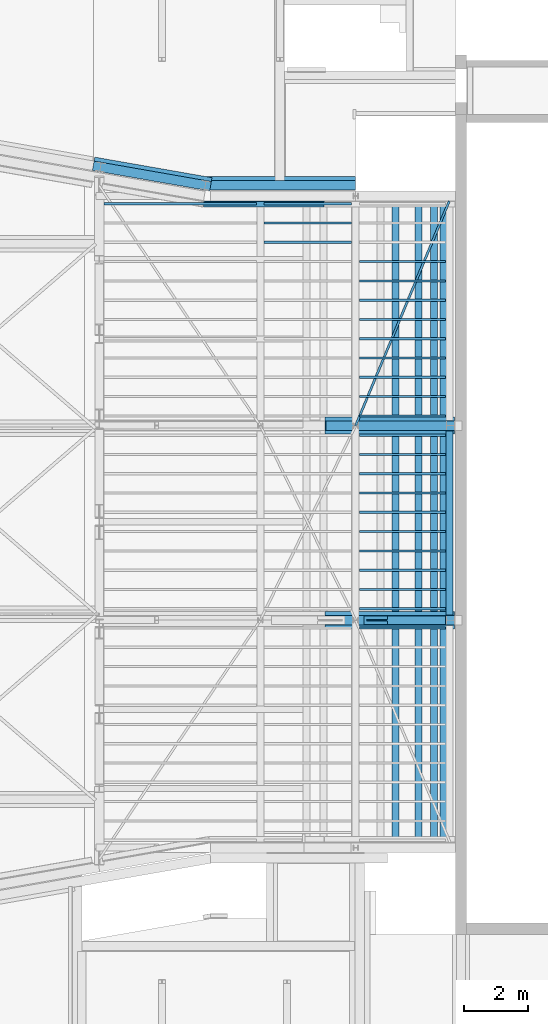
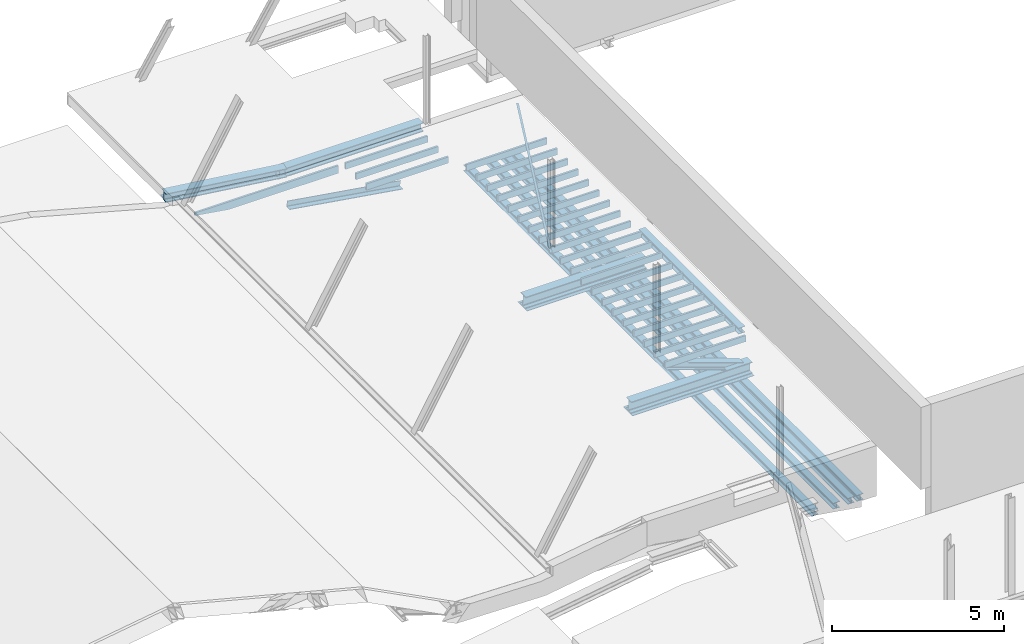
# One storey, part 32 of 50: 36 beams.
"""IFC2X3 building model written with IfcOpenShell, lengths in millimetres."""

from ifc_helpers import new_model, entity, si_unit, converted_unit, derived_unit, direction, frame, frame_2d, origin, origin_2d_with_axis, place, context, subcontext, project, spatial, polyline, circle_curve, parameter, trimmed, segment, composite_curve, rectangle, i_section, outline, extrude, clip, halfspace, source, transform, mapped, material, material_list, type_object, type_shapes, element, save


model = new_model("IFC2X3")

# Units and contexts
model_context = context("Model", 3, precision=0.01, world=origin(), true_north=direction((6.12303176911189e-17, 1.0)))
body_context = subcontext(model_context, "Body", "Model", "MODEL_VIEW")
ifc_project = project(units=[si_unit("LENGTHUNIT", "METRE", prefix="MILLI"), si_unit("AREAUNIT", "SQUARE_METRE", prefix="MILLI"), si_unit("VOLUMEUNIT", "CUBIC_METRE"), converted_unit("PLANEANGLEUNIT", "DEGREE", entity("IfcRatioMeasure", 0.0174532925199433), si_unit("PLANEANGLEUNIT", "RADIAN"), dimensions=[0, 0, 0, 0, 0, 0, 0]), si_unit("MASSUNIT", "GRAM", prefix="KILO"), derived_unit("MASSDENSITYUNIT", [(si_unit("MASSUNIT", "GRAM", prefix="KILO"), 1), (si_unit("LENGTHUNIT", "METRE"), -3)]), derived_unit("MOMENTOFINERTIAUNIT", [(si_unit("LENGTHUNIT", "METRE"), 4)]), si_unit("TIMEUNIT", "SECOND"), si_unit("FREQUENCYUNIT", "HERTZ"), si_unit("THERMODYNAMICTEMPERATUREUNIT", "DEGREE_CELSIUS"), derived_unit("THERMALTRANSMITTANCEUNIT", [(si_unit("MASSUNIT", "GRAM", prefix="KILO"), 1), (si_unit("THERMODYNAMICTEMPERATUREUNIT", "KELVIN"), -1), (si_unit("TIMEUNIT", "SECOND"), -3)]), derived_unit("VOLUMETRICFLOWRATEUNIT", [(si_unit("LENGTHUNIT", "METRE"), 3), (si_unit("TIMEUNIT", "SECOND"), -1)]), si_unit("ELECTRICCURRENTUNIT", "AMPERE"), si_unit("ELECTRICVOLTAGEUNIT", "VOLT"), si_unit("POWERUNIT", "WATT"), si_unit("FORCEUNIT", "NEWTON", prefix="KILO"), si_unit("ILLUMINANCEUNIT", "LUX"), si_unit("LUMINOUSFLUXUNIT", "LUMEN"), si_unit("LUMINOUSINTENSITYUNIT", "CANDELA"), derived_unit("USERDEFINED", [(si_unit("MASSUNIT", "GRAM", prefix="KILO"), -1), (si_unit("LENGTHUNIT", "METRE"), -2), (si_unit("TIMEUNIT", "SECOND"), 3), (si_unit("LUMINOUSFLUXUNIT", "LUMEN"), 1)]), derived_unit("LINEARVELOCITYUNIT", [(si_unit("LENGTHUNIT", "METRE"), 1), (si_unit("TIMEUNIT", "SECOND"), -1)]), si_unit("PRESSUREUNIT", "PASCAL"), derived_unit("USERDEFINED", [(si_unit("LENGTHUNIT", "METRE"), -2), (si_unit("MASSUNIT", "GRAM", prefix="KILO"), 1), (si_unit("TIMEUNIT", "SECOND"), -2)]), derived_unit("LINEARFORCEUNIT", [(si_unit("MASSUNIT", "GRAM", prefix="KILO"), 1), (si_unit("LENGTHUNIT", "METRE"), 1), (si_unit("TIMEUNIT", "SECOND"), -2), (si_unit("LENGTHUNIT", "METRE"), -1)]), derived_unit("PLANARFORCEUNIT", [(si_unit("MASSUNIT", "GRAM", prefix="KILO"), 1), (si_unit("LENGTHUNIT", "METRE"), 1), (si_unit("TIMEUNIT", "SECOND"), -2), (si_unit("LENGTHUNIT", "METRE"), -2)])], contexts=[model_context])

# Site, building, storey
site_placement = place(None, origin())
site = spatial("IfcSite", under=ifc_project, at=site_placement, Name="Theater aan de Parade", CompositionType="ELEMENT")
building_placement = place(site_placement, origin())
building = spatial("IfcBuilding", under=site, at=building_placement, Name="Theater aan de Parade", CompositionType="ELEMENT")
storey_placement = place(building_placement, frame((0.0, 0.0, 15820.0)))
storey = spatial("IfcBuildingStorey", under=building, at=storey_placement, Name="04 vierde verdieping", CompositionType="ELEMENT", Elevation=15820.0)

# Beams
ifc_material_1 = material(Name="00_PBT_MAT_staal_S355")
beam_type_1 = type_object("IfcBeamType", Name="28_PBT_SF_staal_H-profiel:S355_HE220A", PredefinedType="NOTDEFINED")
beam_1_placement = place(storey_placement, frame((67166.05603639, 29346.916549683, 0.0), z_axis=(0.0, 0.0, 1.0), x_axis=(0.0, 1.0, 0.0)))
element("IfcBeam", 1, at=beam_1_placement, inside=storey, type_object=beam_type_1, material=ifc_material_1, Name="28_PBT_SF_staal_H-profiel:S355_HE220A", ObjectType="28_PBT_SF_staal_H-profiel:S355_HE220A", context=body_context, shape_type="SweptSolid", body=[
    extrude(i_section(OverallWidth=220.000000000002, OverallDepth=210.0, WebThickness=6.99999999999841, FlangeThickness=10.9999999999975, FilletRadius=17.9999999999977, at=frame_2d((-4.32720526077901e-12, 8.66862137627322e-12), x_axis=(0.0, 1.0))), frame((162.700000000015, 0.0, 1195.0), z_axis=(1.0, 0.0, 0.0), x_axis=(0.0, 0.0, -1.0)), (0.0, 0.0, 1.0), 5800.18344589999),
])
for number, where, z_axis, x_axis in (
    (2, (65470.0, 42550.0, 0.0), (0.0, 0.0, 1.0), (0.0, -1.0, 0.0)),
    (3, (66196.8570769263, 42550.0, 0.0), (0.0, 0.0, 1.0), (0.0, -1.0, 0.0)),
    (4, (66686.8570769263, 42550.0, 0.0), (0.0, 0.0, 1.0), (0.0, -1.0, 0.0)),
    (5, (66986.8570769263, 42550.0, 0.0), (0.0, 0.0, 1.0), (0.0, -1.0, 0.0)),
):
    element("IfcBeam", number, at=place(storey_placement, frame(where, z_axis=z_axis, x_axis=x_axis)), inside=storey, type_object=beam_type_1, material=ifc_material_1, Name="28_PBT_SF_staal_H-profiel:S355_HE220A", ObjectType="28_PBT_SF_staal_H-profiel:S355_HE220A", context=body_context, shape_type="SweptSolid", body=[
        extrude(i_section(OverallWidth=220.000000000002, OverallDepth=210.0, WebThickness=6.99999999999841, FlangeThickness=10.9999999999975, FilletRadius=17.9999999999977, at=frame_2d((-2.16715534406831e-12, 8.66862137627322e-12), x_axis=(0.0, 1.0))), frame((0.0, 0.0, -320.0), z_axis=(1.0, 0.0, 0.0), x_axis=(0.0, 0.0, -1.0)), (0.0, 0.0, 1.0), 20209.9999999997),
    ])
beam_type_2 = type_object("IfcBeamType", Name="28_PBT_SF_staal_L-profiel:S355_L200x200x20", PredefinedType="NOTDEFINED")
beam_2_placement = place(storey_placement, frame((59468.0092258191, 42493.1999999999, 652.292604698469), z_axis=(0.156434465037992, 0.0, 0.987688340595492), x_axis=(0.987688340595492, 0.0, -0.156434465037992)))
element("IfcBeam", 6, at=beam_2_placement, inside=storey, type_object=beam_type_2, material=ifc_material_1, Name="28_PBT_SF_staal_L-profiel:S355_L200x200x20", ObjectType="28_PBT_SF_staal_L-profiel:S355_L200x200x20", context=body_context, shape_type="SweptSolid", body=[
    extrude(outline(composite_curve([segment(polyline([(64.5555555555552, -124.44444444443), (75.5555555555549, -124.44444444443)]), True, "CONTINUOUS"), segment(polyline([(75.5555555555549, -124.44444444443), (75.5555555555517, 75.5555555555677)]), True, "CONTINUOUS"), segment(polyline([(75.5555555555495, 75.5555555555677), (-124.444444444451, 75.5555555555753)]), True, "CONTINUOUS"), segment(polyline([(-124.444444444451, 75.5555555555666), (-124.44444444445, 64.5555555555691)]), True, "CONTINUOUS"), segment(trimmed(circle_curve(frame_2d((-115.444444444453, 64.5555555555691), x_axis=(-1.0, 0.0)), 8.99999999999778), [parameter(0.0)], [parameter(90.0000000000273)], True, "PARAMETER"), True, "CONTINUOUS"), segment(polyline([(-115.444444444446, 55.5555555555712), (37.5555555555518, 55.5555555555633)]), True, "CONTINUOUS"), segment(trimmed(circle_curve(frame_2d((37.555555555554, 37.5555555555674), x_axis=(0.0, 1.0)), 17.9999999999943), [parameter(269.999999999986)], [parameter(0.0)], True, "PARAMETER"), False, "CONTINUOUS"), segment(polyline([(55.5555555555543, 37.5555555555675), (55.5555555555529, -115.444444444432)]), True, "CONTINUOUS"), segment(trimmed(circle_curve(frame_2d((64.5555555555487, -115.444444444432), x_axis=(-1.0, 0.0)), 8.99999999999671), [parameter(0.0)], [parameter(90.0000000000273)], True, "PARAMETER"), True, "CONTINUOUS")], self_intersect=False)), frame((0.0, -18.7555555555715, -199.44444444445), z_axis=(1.0, 0.0, 0.0), x_axis=(0.0, 0.0, -1.0)), (0.0, 0.0, 1.0), 3842.92680824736),
])
beam_type_3 = type_object("IfcBeamType", Name="28_PBT_SF_staal_H-profiel:S355_HE260B", PredefinedType="NOTDEFINED")
beam_3_placement = place(storey_placement, frame((64328.2377806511, 29346.916549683, 1093.71507664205), z_axis=(0.332948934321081, 0.0, 0.942944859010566), x_axis=(0.942944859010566, 0.0, -0.332948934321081)))
element("IfcBeam", 7, at=beam_3_placement, inside=storey, type_object=beam_type_3, material=ifc_material_1, Name="28_PBT_SF_staal_H-profiel:S355_HE260B", ObjectType="28_PBT_SF_staal_H-profiel:S355_HE260B", context=body_context, shape_type="Clipping", body=[
    clip(clip(clip(extrude(outline(composite_curve([segment(polyline([(112.499999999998, -130.0), (130.0, -130.0)]), True, "CONTINUOUS"), segment(polyline([(130.0, -130.0), (130.0, 130.0)]), True, "CONTINUOUS"), segment(polyline([(130.0, 130.0), (112.499999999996, 130.0)]), True, "CONTINUOUS"), segment(polyline([(112.499999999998, 130.0), (112.499999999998, 29.0)]), True, "CONTINUOUS"), segment(trimmed(circle_curve(frame_2d((88.5000000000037, 29.0), x_axis=(1.0, 0.0)), 24.0000000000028), [parameter(270.00000000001)], [parameter(0.0)], True, "PARAMETER"), False, "CONTINUOUS"), segment(polyline([(88.5000000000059, 5.0), (-88.4999999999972, 5.0)]), True, "CONTINUOUS"), segment(trimmed(circle_curve(frame_2d((-88.4999999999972, 29.0), x_axis=(0.0, -1.0)), 24.0000000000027), [parameter(270.000000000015)], [parameter(0.0)], True, "PARAMETER"), False, "CONTINUOUS"), segment(polyline([(-112.499999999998, 29.0), (-112.499999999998, 130.0)]), True, "CONTINUOUS"), segment(polyline([(-112.499999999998, 130.0), (-130.0, 130.0)]), True, "CONTINUOUS"), segment(polyline([(-130.0, 130.0), (-130.0, -130.0)]), True, "CONTINUOUS"), segment(polyline([(-130.0, -130.0), (-112.499999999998, -130.0)]), True, "CONTINUOUS"), segment(polyline([(-112.500000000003, -130.0), (-112.5, -29.0)]), True, "CONTINUOUS"), segment(trimmed(circle_curve(frame_2d((-88.4999999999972, -29.0), x_axis=(-1.0, 0.0)), 24.0000000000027), [parameter(270.000000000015)], [parameter(0.0)], True, "PARAMETER"), False, "CONTINUOUS"), segment(polyline([(-88.4999999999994, -5.0), (88.499999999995, -5.0)]), True, "CONTINUOUS"), segment(trimmed(circle_curve(frame_2d((88.5000000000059, -29.0), x_axis=(0.0, 1.0)), 23.9999999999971), [parameter(269.999999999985)], [parameter(0.0)], True, "PARAMETER"), False, "CONTINUOUS"), segment(polyline([(112.499999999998, -29.0), (112.499999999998, -130.0)]), True, "CONTINUOUS")], self_intersect=False)), frame((213.643107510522, 0.0, 0.0), z_axis=(1.0, 0.0, 0.0), x_axis=(0.0, 0.0, -1.0)), (0.0, 0.0, 1.0), 2644.91552228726), halfspace(frame((-427.447160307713, -170.0, -1077.51067672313), z_axis=(0.332948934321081, 0.0, -0.942944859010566), x_axis=(0.942944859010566, 0.0, 0.332948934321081)), False)), halfspace(frame((2871.87658717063, -150.0, 45.0431137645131), z_axis=(0.942944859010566, 0.0, 0.332948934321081), x_axis=(-0.332948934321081, 0.0, 0.942944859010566)), False)), halfspace(frame((-7530.79445780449, 170.0, -2864.52069826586), z_axis=(-0.332948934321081, 0.0, 0.942944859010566), x_axis=(0.942944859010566, 0.0, 0.332948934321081)), False)),
])
ifc_material_2 = material(Name="00_PBT_MAT_Lucht")
ifc_material_list_1 = material_list([ifc_material_1, ifc_material_2])
beam_type_4 = type_object("IfcBeamType", Name="28_PBT_SF_staal_H-profiel_met_ondergelaste_strip (void):S355_HE300B + ondergelaste strip", PredefinedType="BEAM", material=ifc_material_list_1)
shared_shape_1 = source(origin(), body_context, "Body", "SweptSolid", [
    extrude(outline(composite_curve([segment(polyline([(131.0, -150.0), (150.0, -150.0)]), True, "CONTINUOUS"), segment(polyline([(150.0, -150.0), (150.0, 150.0)]), True, "CONTINUOUS"), segment(polyline([(150.0, 150.0), (131.0, 150.0)]), True, "CONTINUOUS"), segment(polyline([(131.0, 150.0), (131.0, 32.4999999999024)]), True, "CONTINUOUS"), segment(trimmed(circle_curve(frame_2d((104.0, 32.499999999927), x_axis=(1.0, 0.0)), 27.0000000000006), [parameter(270.0)], [parameter(0.0)], True, "PARAMETER"), False, "CONTINUOUS"), segment(polyline([(104.0, 5.49999999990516), (-104.0, 5.50000000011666)]), True, "CONTINUOUS"), segment(trimmed(circle_curve(frame_2d((-104.0, 32.5000000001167), x_axis=(0.0, -1.0)), 27.0000000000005), [parameter(270.0)], [parameter(0.0)], True, "PARAMETER"), False, "CONTINUOUS"), segment(polyline([(-131.0, 32.5000000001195), (-131.0, 150.0)]), True, "CONTINUOUS"), segment(polyline([(-131.0, 150.0), (-150.0, 150.0)]), True, "CONTINUOUS"), segment(polyline([(-150.0, 150.0), (-150.0, -150.0)]), True, "CONTINUOUS"), segment(polyline([(-150.0, -150.0), (-131.0, -150.0)]), True, "CONTINUOUS"), segment(polyline([(-131.0, -150.0), (-131.0, -32.499999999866)]), True, "CONTINUOUS"), segment(trimmed(circle_curve(frame_2d((-104.0, -32.4999999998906), x_axis=(-1.0, 0.0)), 27.0000000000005), [parameter(270.0)], [parameter(0.0)], True, "PARAMETER"), False, "CONTINUOUS"), segment(polyline([(-104.0, -5.49999999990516), (104.0, -5.50000000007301)]), True, "CONTINUOUS"), segment(trimmed(circle_curve(frame_2d((104.0, -32.5000000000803), x_axis=(0.0, 1.0)), 27.0000000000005), [parameter(270.0)], [parameter(0.0)], True, "PARAMETER"), False, "CONTINUOUS"), segment(polyline([(131.0, -32.5000000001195), (131.0, -150.0)]), True, "CONTINUOUS")], self_intersect=False)), frame((59364.3916864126, 43035.0, 17135.0), z_axis=(1.0, 0.0, 0.0), x_axis=(0.0, 0.0, -1.0)), (0.0, 0.0, 1.0), 4851.66434997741),
    extrude(rectangle(XDim=14.9999999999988, YDim=420.0, at=frame_2d((0.0, 1.29887212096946e-11), x_axis=(1.0, 0.0))), frame((59365.3916864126, 43100.0, 16977.5), z_axis=(1.0, 0.0, 0.0), x_axis=(0.0, 0.0, -1.0)), (0.0, 0.0, 1.0), 4849.66434997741),
])
type_shapes(beam_type_4, [shared_shape_1])
beam_4_placement = place(storey_placement, frame((0.0, 0.0, -15820.0)))
element("IfcBeam", 8, at=beam_4_placement, inside=storey, type_object=beam_type_4, material=ifc_material_1, Name="28_PBT_SF_staal_H-profiel_met_ondergelaste_strip (void):S355_HE300B + ondergelaste strip", ObjectType="28_PBT_SF_staal_H-profiel_met_ondergelaste_strip (void):S355_HE300B + ondergelaste strip", context=body_context, shape_type="MappedRepresentation", body=[
    mapped(shared_shape_1, transform((0.0, 0.0, 0.0), scale=1.0)),
])
ifc_material_list_2 = material_list([ifc_material_2, ifc_material_1])
beam_type_5 = type_object("IfcBeamType", Name="28_PBT_SF_staal_H-profiel_met_ondergelaste_strip (void):S355_HE300B + ondergelaste strip", PredefinedType="BEAM", material=ifc_material_list_2)
shared_shape_2 = source(origin(), body_context, "Body", "SweptSolid", [
    extrude(rectangle(XDim=15.0, YDim=420.0, at=origin_2d_with_axis()), frame((-1872.58410900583, 65.0, -157.500000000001), z_axis=(1.0, 0.0, 0.0), x_axis=(0.0, 0.0, -1.0)), (0.0, 0.0, 1.0), 3745.16821801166),
    extrude(outline(composite_curve([segment(polyline([(131.0, -150.0), (150.0, -150.0)]), True, "CONTINUOUS"), segment(polyline([(150.0, -150.0), (150.0, 150.0)]), True, "CONTINUOUS"), segment(polyline([(150.0, 150.0), (131.0, 150.0)]), True, "CONTINUOUS"), segment(polyline([(131.0, 150.0), (131.0, 32.5)]), True, "CONTINUOUS"), segment(trimmed(circle_curve(frame_2d((104.0, 32.5), x_axis=(1.0, 0.0)), 27.0000000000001), [parameter(270.0)], [parameter(0.0)], True, "PARAMETER"), False, "CONTINUOUS"), segment(polyline([(104.0, 5.49999999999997), (-104.0, 5.49999999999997)]), True, "CONTINUOUS"), segment(trimmed(circle_curve(frame_2d((-104.0, 32.5), x_axis=(0.0, -1.0)), 27.0), [parameter(270.0)], [parameter(0.0)], True, "PARAMETER"), False, "CONTINUOUS"), segment(polyline([(-131.0, 32.5), (-131.0, 150.0)]), True, "CONTINUOUS"), segment(polyline([(-131.0, 150.0), (-150.0, 150.0)]), True, "CONTINUOUS"), segment(polyline([(-150.0, 150.0), (-150.0, -150.0)]), True, "CONTINUOUS"), segment(polyline([(-150.0, -150.0), (-131.0, -150.0)]), True, "CONTINUOUS"), segment(polyline([(-131.0, -150.0), (-131.0, -32.5)]), True, "CONTINUOUS"), segment(trimmed(circle_curve(frame_2d((-104.0, -32.5), x_axis=(-1.0, 0.0)), 27.0), [parameter(269.999999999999)], [parameter(0.0)], True, "PARAMETER"), False, "CONTINUOUS"), segment(polyline([(-104.0, -5.50000000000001), (104.0, -5.50000000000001)]), True, "CONTINUOUS"), segment(trimmed(circle_curve(frame_2d((104.0, -32.5), x_axis=(0.0, 1.0)), 27.0), [parameter(270.0)], [parameter(0.0)], True, "PARAMETER"), False, "CONTINUOUS"), segment(polyline([(131.0, -32.5), (131.0, -150.0)]), True, "CONTINUOUS")], self_intersect=False)), frame((-1873.58410900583, 0.0, 0.0), z_axis=(1.0, 0.0, 0.0), x_axis=(0.0, 0.0, -1.0)), (0.0, 0.0, 1.0), 3747.16821801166),
])
type_shapes(beam_type_5, [shared_shape_2])
beam_5_placement = place(storey_placement, frame((57803.2196640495, 43329.0571160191, 1315.0), z_axis=(0.0, 0.0, 1.0), x_axis=(0.985030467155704, -0.172380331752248, 0.0)))
element("IfcBeam", 9, at=beam_5_placement, inside=storey, type_object=beam_type_5, material=ifc_material_1, Name="28_PBT_SF_staal_H-profiel_met_ondergelaste_strip (void):S355_HE300B + ondergelaste strip", ObjectType="28_PBT_SF_staal_H-profiel_met_ondergelaste_strip (void):S355_HE300B + ondergelaste strip", context=body_context, shape_type="MappedRepresentation", body=[
    mapped(shared_shape_2, transform((0.0, 0.0, 0.0), scale=1.0)),
])
ifc_material_3 = material(Name="00_PBT_MAT_hout")
beam_type_6 = type_object("IfcBeamType", Name="28_PBT_SF_rechthoekig hout:70x270", PredefinedType="NOTDEFINED")
beam_6_placement = place(storey_placement, frame((61216.0560363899, 42456.0, 0.0), z_axis=(0.0, 0.0, 1.0), x_axis=(-1.0, 0.0, 0.0)))
element("IfcBeam", 10, at=beam_6_placement, inside=storey, type_object=beam_type_6, material=ifc_material_3, Name="28_PBT_SF_rechthoekig hout:70x270", ObjectType="28_PBT_SF_rechthoekig hout:70x270", context=body_context, shape_type="Clipping", body=[
    clip(extrude(rectangle(XDim=270.000000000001, YDim=70.0000000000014, at=frame_2d((0.0, 0.0), x_axis=(0.0, 1.0))), frame((122.699999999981, 0.0, 1187.0), z_axis=(1.0, 0.0, 0.0), x_axis=(0.0, 1.0, 0.0)), (0.0, 0.0, 1.0), 4799.9812878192), halfspace(frame((2971.92563283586, 4922.68128781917, 920.0), z_axis=(0.156434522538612, 0.0, -0.987688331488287), x_axis=(0.0, -1.0, 0.0)), False)),
])
beam_type_7 = type_object("IfcBeamType", Name="28_PBT_SF_rechthoekig hout:70x220", PredefinedType="NOTDEFINED")
beam_7_placement = place(storey_placement, frame((67166.05603639, 29102.0, 0.0), z_axis=(0.0, 0.0, 1.0), x_axis=(-1.0, 0.0, 0.0)))
element("IfcBeam", 11, at=beam_7_placement, inside=storey, type_object=beam_type_7, material=ifc_material_3, Name="28_PBT_SF_rechthoekig hout:70x220", ObjectType="28_PBT_SF_rechthoekig hout:70x220", context=body_context, shape_type="SweptSolid", body=[
    extrude(rectangle(XDim=220.0, YDim=70.0000000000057, at=frame_2d((1.08002495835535e-12, 2.16715534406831e-12), x_axis=(1.0, 0.0))), frame((122.700000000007, 0.0, 1212.0), z_axis=(1.0, 0.0, 0.0), x_axis=(0.0, 0.0, -1.0)), (0.0, 0.0, 1.0), 2704.6),
])
beam_8_placement = place(storey_placement, frame((67166.05603639, 29709.0, 0.0), z_axis=(0.0, 0.0, 1.0), x_axis=(-1.0, 0.0, 0.0)))
element("IfcBeam", 12, at=beam_8_placement, inside=storey, type_object=beam_type_7, material=ifc_material_3, Name="28_PBT_SF_rechthoekig hout:70x220", ObjectType="28_PBT_SF_rechthoekig hout:70x220", context=body_context, shape_type="SweptSolid", body=[
    extrude(rectangle(XDim=220.0, YDim=70.0000000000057, at=frame_2d((1.08002495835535e-12, -2.16715534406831e-12), x_axis=(1.0, 0.0))), frame((122.700000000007, 0.0, 1212.0), z_axis=(1.0, 0.0, 0.0), x_axis=(0.0, 0.0, -1.0)), (0.0, 0.0, 1.0), 2704.6),
])
beam_9_placement = place(storey_placement, frame((67166.05603639, 30316.0, 0.0), z_axis=(0.0, 0.0, 1.0), x_axis=(-1.0, 0.0, 0.0)))
element("IfcBeam", 13, at=beam_9_placement, inside=storey, type_object=beam_type_7, material=ifc_material_3, Name="28_PBT_SF_rechthoekig hout:70x220", ObjectType="28_PBT_SF_rechthoekig hout:70x220", context=body_context, shape_type="SweptSolid", body=[
    extrude(rectangle(XDim=220.0, YDim=70.0000000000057, at=frame_2d((1.08002495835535e-12, 2.16715534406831e-12), x_axis=(1.0, 0.0))), frame((122.700000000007, 0.0, 1212.0), z_axis=(1.0, 0.0, 0.0), x_axis=(0.0, 0.0, -1.0)), (0.0, 0.0, 1.0), 2704.6),
])
beam_10_placement = place(storey_placement, frame((67166.05603639, 30923.0, 0.0), z_axis=(0.0, 0.0, 1.0), x_axis=(-1.0, 0.0, 0.0)))
element("IfcBeam", 14, at=beam_10_placement, inside=storey, type_object=beam_type_7, material=ifc_material_3, Name="28_PBT_SF_rechthoekig hout:70x220", ObjectType="28_PBT_SF_rechthoekig hout:70x220", context=body_context, shape_type="SweptSolid", body=[
    extrude(rectangle(XDim=220.0, YDim=70.0000000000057, at=frame_2d((1.08002495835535e-12, -2.16715534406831e-12), x_axis=(1.0, 0.0))), frame((122.700000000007, 0.0, 1212.0), z_axis=(1.0, 0.0, 0.0), x_axis=(0.0, 0.0, -1.0)), (0.0, 0.0, 1.0), 2704.6),
])
beam_11_placement = place(storey_placement, frame((67166.05603639, 31530.0, 0.0), z_axis=(0.0, 0.0, 1.0), x_axis=(-1.0, 0.0, 0.0)))
element("IfcBeam", 15, at=beam_11_placement, inside=storey, type_object=beam_type_7, material=ifc_material_3, Name="28_PBT_SF_rechthoekig hout:70x220", ObjectType="28_PBT_SF_rechthoekig hout:70x220", context=body_context, shape_type="SweptSolid", body=[
    extrude(rectangle(XDim=220.0, YDim=70.0000000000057, at=frame_2d((1.08002495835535e-12, 2.16715534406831e-12), x_axis=(1.0, 0.0))), frame((122.700000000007, 0.0, 1212.0), z_axis=(1.0, 0.0, 0.0), x_axis=(0.0, 0.0, -1.0)), (0.0, 0.0, 1.0), 2704.6),
])
beam_12_placement = place(storey_placement, frame((67166.05603639, 32137.0, 0.0), z_axis=(0.0, 0.0, 1.0), x_axis=(-1.0, 0.0, 0.0)))
element("IfcBeam", 16, at=beam_12_placement, inside=storey, type_object=beam_type_7, material=ifc_material_3, Name="28_PBT_SF_rechthoekig hout:70x220", ObjectType="28_PBT_SF_rechthoekig hout:70x220", context=body_context, shape_type="SweptSolid", body=[
    extrude(rectangle(XDim=220.0, YDim=70.0000000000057, at=frame_2d((1.08002495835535e-12, -2.16715534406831e-12), x_axis=(1.0, 0.0))), frame((122.700000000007, 0.0, 1212.0), z_axis=(1.0, 0.0, 0.0), x_axis=(0.0, 0.0, -1.0)), (0.0, 0.0, 1.0), 2704.6),
])
for number, where, z_axis, x_axis, name in (
    (17, (67166.05603639, 32744.0, 0.0), (0.0, 0.0, 1.0), (-1.0, 0.0, 0.0), "28_PBT_SF_rechthoekig hout:70x220"),
    (18, (67166.05603639, 33351.0, 0.0), (0.0, 0.0, 1.0), (-1.0, 0.0, 0.0), "28_PBT_SF_rechthoekig hout:70x220"),
    (19, (67166.05603639, 33958.0, 0.0), (0.0, 0.0, 1.0), (-1.0, 0.0, 0.0), "28_PBT_SF_rechthoekig hout:70x220"),
):
    element("IfcBeam", number, at=place(storey_placement, frame(where, z_axis=z_axis, x_axis=x_axis)), inside=storey, type_object=beam_type_7, material=ifc_material_3, Name=name, ObjectType="28_PBT_SF_rechthoekig hout:70x220", context=body_context, shape_type="SweptSolid", body=[
        extrude(rectangle(XDim=220.0, YDim=70.0000000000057, at=frame_2d((1.08002495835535e-12, 2.16715534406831e-12), x_axis=(1.0, 0.0))), frame((122.700000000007, 0.0, 1212.0), z_axis=(1.0, 0.0, 0.0), x_axis=(0.0, 0.0, -1.0)), (0.0, 0.0, 1.0), 2704.6),
    ])
beam_13_placement = place(storey_placement, frame((67166.05603639, 34565.0, 0.0), z_axis=(0.0, 0.0, 1.0), x_axis=(-1.0, 0.0, 0.0)))
element("IfcBeam", 20, at=beam_13_placement, inside=storey, type_object=beam_type_7, material=ifc_material_3, Name="28_PBT_SF_rechthoekig hout:70x220", ObjectType="28_PBT_SF_rechthoekig hout:70x220", context=body_context, shape_type="SweptSolid", body=[
    extrude(rectangle(XDim=220.0, YDim=70.0000000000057, at=frame_2d((1.08002495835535e-12, -2.16715534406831e-12), x_axis=(1.0, 0.0))), frame((122.700000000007, 0.0, 1212.0), z_axis=(1.0, 0.0, 0.0), x_axis=(0.0, 0.0, -1.0)), (0.0, 0.0, 1.0), 2704.6),
])
beam_14_placement = place(storey_placement, frame((67166.05603639, 35172.0, 0.0), z_axis=(0.0, 0.0, 1.0), x_axis=(-1.0, 0.0, 0.0)))
element("IfcBeam", 21, at=beam_14_placement, inside=storey, type_object=beam_type_7, material=ifc_material_3, Name="28_PBT_SF_rechthoekig hout:70x220", ObjectType="28_PBT_SF_rechthoekig hout:70x220", context=body_context, shape_type="SweptSolid", body=[
    extrude(rectangle(XDim=220.0, YDim=70.0000000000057, at=frame_2d((1.08002495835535e-12, 2.16715534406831e-12), x_axis=(1.0, 0.0))), frame((122.700000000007, 0.0, 1212.0), z_axis=(1.0, 0.0, 0.0), x_axis=(0.0, 0.0, -1.0)), (0.0, 0.0, 1.0), 2704.6),
])
beam_15_placement = place(storey_placement, frame((67166.05603639, 35779.0, 0.0), z_axis=(0.0, 0.0, 1.0), x_axis=(-1.0, 0.0, 0.0)))
element("IfcBeam", 22, at=beam_15_placement, inside=storey, type_object=beam_type_7, material=ifc_material_3, Name="28_PBT_SF_rechthoekig hout:70x220", ObjectType="28_PBT_SF_rechthoekig hout:70x220", context=body_context, shape_type="SweptSolid", body=[
    extrude(rectangle(XDim=220.0, YDim=70.0000000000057, at=frame_2d((1.08002495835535e-12, -2.16715534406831e-12), x_axis=(1.0, 0.0))), frame((122.700000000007, 0.0, 1212.0), z_axis=(1.0, 0.0, 0.0), x_axis=(0.0, 0.0, -1.0)), (0.0, 0.0, 1.0), 2704.6),
])
beam_16_placement = place(storey_placement, frame((67166.05603639, 36386.0, 0.0), z_axis=(0.0, 0.0, 1.0), x_axis=(-1.0, 0.0, 0.0)))
element("IfcBeam", 23, at=beam_16_placement, inside=storey, type_object=beam_type_7, material=ifc_material_3, Name="28_PBT_SF_rechthoekig hout:70x220", ObjectType="28_PBT_SF_rechthoekig hout:70x220", context=body_context, shape_type="SweptSolid", body=[
    extrude(rectangle(XDim=220.0, YDim=70.0000000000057, at=frame_2d((1.08002495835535e-12, 2.16715534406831e-12), x_axis=(1.0, 0.0))), frame((122.700000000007, 0.0, 1212.0), z_axis=(1.0, 0.0, 0.0), x_axis=(0.0, 0.0, -1.0)), (0.0, 0.0, 1.0), 2704.6),
])
beam_17_placement = place(storey_placement, frame((67166.05603639, 36993.0, 0.0), z_axis=(0.0, 0.0, 1.0), x_axis=(-1.0, 0.0, 0.0)))
element("IfcBeam", 24, at=beam_17_placement, inside=storey, type_object=beam_type_7, material=ifc_material_3, Name="28_PBT_SF_rechthoekig hout:70x220", ObjectType="28_PBT_SF_rechthoekig hout:70x220", context=body_context, shape_type="SweptSolid", body=[
    extrude(rectangle(XDim=220.0, YDim=70.0000000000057, at=frame_2d((1.08002495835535e-12, -2.16715534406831e-12), x_axis=(1.0, 0.0))), frame((122.700000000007, 0.0, 1212.0), z_axis=(1.0, 0.0, 0.0), x_axis=(0.0, 0.0, -1.0)), (0.0, 0.0, 1.0), 2704.6),
])
for number, where, z_axis, x_axis, name in (
    (25, (67166.05603639, 37600.0, 0.0), (0.0, 0.0, 1.0), (-1.0, 0.0, 0.0), "28_PBT_SF_rechthoekig hout:70x220"),
    (26, (67166.05603639, 38207.0, 0.0), (0.0, 0.0, 1.0), (-1.0, 0.0, 0.0), "28_PBT_SF_rechthoekig hout:70x220"),
    (27, (67166.05603639, 38814.0, 0.0), (0.0, 0.0, 1.0), (-1.0, 0.0, 0.0), "28_PBT_SF_rechthoekig hout:70x220"),
):
    element("IfcBeam", number, at=place(storey_placement, frame(where, z_axis=z_axis, x_axis=x_axis)), inside=storey, type_object=beam_type_7, material=ifc_material_3, Name=name, ObjectType="28_PBT_SF_rechthoekig hout:70x220", context=body_context, shape_type="SweptSolid", body=[
        extrude(rectangle(XDim=220.0, YDim=70.0000000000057, at=frame_2d((1.08002495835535e-12, 2.16715534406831e-12), x_axis=(1.0, 0.0))), frame((122.700000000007, 0.0, 1212.0), z_axis=(1.0, 0.0, 0.0), x_axis=(0.0, 0.0, -1.0)), (0.0, 0.0, 1.0), 2704.6),
    ])
for number, where, z_axis, x_axis, name in (
    (28, (67166.05603639, 39421.0, 0.0), (0.0, 0.0, 1.0), (-1.0, 0.0, 0.0), "28_PBT_SF_rechthoekig hout:70x220"),
    (29, (67166.05603639, 40028.0, 0.0), (0.0, 0.0, 1.0), (-1.0, 0.0, 0.0), "28_PBT_SF_rechthoekig hout:70x220"),
    (30, (67166.05603639, 40635.0, 0.0), (0.0, 0.0, 1.0), (-1.0, 0.0, 0.0), "28_PBT_SF_rechthoekig hout:70x220"),
):
    element("IfcBeam", number, at=place(storey_placement, frame(where, z_axis=z_axis, x_axis=x_axis)), inside=storey, type_object=beam_type_7, material=ifc_material_3, Name=name, ObjectType="28_PBT_SF_rechthoekig hout:70x220", context=body_context, shape_type="SweptSolid", body=[
        extrude(rectangle(XDim=220.0, YDim=70.0000000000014, at=frame_2d((1.08002495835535e-12, 0.0), x_axis=(1.0, 0.0))), frame((122.700000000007, 0.0, 1212.0), z_axis=(1.0, 0.0, 0.0), x_axis=(0.0, 0.0, -1.0)), (0.0, 0.0, 1.0), 2704.6),
    ])
for number, where, name in (
    (31, (61216.05603639, 41242.0, 0.0), "28_PBT_SF_rechthoekig hout:70x220"),
    (32, (61216.05603639, 41849.0, 0.0), "28_PBT_SF_rechthoekig hout:70x220"),
    (33, (61216.05603639, 42456.0, 0.0), "28_PBT_SF_rechthoekig hout:70x220"),
):
    element("IfcBeam", number, at=place(storey_placement, frame(where)), inside=storey, type_object=beam_type_7, material=ifc_material_3, Name=name, ObjectType="28_PBT_SF_rechthoekig hout:70x220", context=body_context, shape_type="SweptSolid", body=[
        extrude(rectangle(XDim=220.0, YDim=70.0000000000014, at=frame_2d((1.08002495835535e-12, 0.0), x_axis=(1.0, 0.0))), frame((122.699999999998, 0.0, 1212.0), z_axis=(1.0, 0.0, 0.0), x_axis=(0.0, 0.0, -1.0)), (0.0, 0.0, 1.0), 2754.59999999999),
    ])
ifc_material_list_3 = material_list([ifc_material_1, ifc_material_2])
beam_type_8 = type_object("IfcBeamType", Name="28_PBT_SF_staal_H-profiel_met_onderplaat (void):S355_HE400B + onderplaat", PredefinedType="BEAM", material=ifc_material_list_3)
shared_shape_3 = source(origin(), body_context, "Body", "Clipping", [
    clip(extrude(i_section(OverallWidth=300.000000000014, OverallDepth=400.0, WebThickness=13.4999999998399, FlangeThickness=23.9999999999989, FilletRadius=26.9999999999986, at=frame_2d((-2.1600499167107e-12, 2.1600499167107e-12), x_axis=(0.0, 1.0))), frame((63251.0596443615, 29346.916549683, 15820.0), z_axis=(1.0, 0.0, 0.0), x_axis=(0.0, 0.0, -1.0)), (0.0, 0.0, 1.0), 4080.19645660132), halfspace(frame((63282.5403270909, 29346.916549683, 16020.0), z_axis=(-0.996917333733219, 0.0, 0.0784590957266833), x_axis=(0.0784590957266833, 0.0, 0.996917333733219)), False)),
    clip(extrude(rectangle(XDim=14.9999999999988, YDim=539.999999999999, at=frame_2d((0.0, 1.51487711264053e-11), x_axis=(1.0, 0.0))), frame((63249.8791187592, 29346.916549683, 15612.5), z_axis=(1.0, 0.0, 0.0), x_axis=(0.0, 0.0, -1.0)), (0.0, 0.0, 1.0), 4081.37698220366), halfspace(frame((63282.5403270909, 29346.916549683, 16020.0), z_axis=(-0.996917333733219, 0.0, 0.0784590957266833), x_axis=(0.0784590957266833, 0.0, 0.996917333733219)), False)),
])
type_shapes(beam_type_8, [shared_shape_3])
beam_18_placement = place(storey_placement, frame((0.0, 0.0, -15820.0)))
element("IfcBeam", 34, at=beam_18_placement, inside=storey, type_object=beam_type_8, material=ifc_material_1, Name="28_PBT_SF_staal_H-profiel_met_onderplaat (void):S355_HE400B + onderplaat", ObjectType="28_PBT_SF_staal_H-profiel_met_onderplaat (void):S355_HE400B + onderplaat", context=body_context, shape_type="MappedRepresentation", body=[
    mapped(shared_shape_3, transform((0.0, 0.0, 0.0), scale=1.0)),
])
ifc_material_list_4 = material_list([ifc_material_1, ifc_material_2])
beam_type_9 = type_object("IfcBeamType", Name="28_PBT_SF_staal_H-profiel_met_onderplaat (void):S355_HE400B + onderplaat", PredefinedType="BEAM", material=ifc_material_list_4)
shared_shape_4 = source(origin(), body_context, "Body", "Clipping", [
    clip(extrude(i_section(OverallWidth=300.000000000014, OverallDepth=400.0, WebThickness=13.4999999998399, FlangeThickness=23.9999999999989, FilletRadius=26.9999999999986, at=frame_2d((-2.1600499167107e-12, -6.49436060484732e-12), x_axis=(0.0, 1.0))), frame((63251.0596443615, 35472.499995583, 15820.0), z_axis=(1.0, 0.0, 0.0), x_axis=(0.0, 0.0, -1.0)), (0.0, 0.0, 1.0), 4080.1964566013), halfspace(frame((63282.5403270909, 35472.499995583, 16020.0), z_axis=(-0.996917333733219, 0.0, 0.0784590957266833), x_axis=(0.0784590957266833, 0.0, 0.996917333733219)), False)),
    clip(extrude(rectangle(XDim=14.9999999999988, YDim=539.999999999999, at=frame_2d((0.0, 1.51487711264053e-11), x_axis=(1.0, 0.0))), frame((63249.8791187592, 35472.499995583, 15612.5), z_axis=(1.0, 0.0, 0.0), x_axis=(0.0, 0.0, -1.0)), (0.0, 0.0, 1.0), 4081.37698220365), halfspace(frame((63282.5403270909, 35472.499995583, 16020.0), z_axis=(-0.996917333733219, 0.0, 0.0784590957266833), x_axis=(0.0784590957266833, 0.0, 0.996917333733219)), False)),
])
type_shapes(beam_type_9, [shared_shape_4])
beam_19_placement = place(storey_placement, frame((0.0, 0.0, -15820.0)))
element("IfcBeam", 35, at=beam_19_placement, inside=storey, type_object=beam_type_9, material=ifc_material_1, Name="28_PBT_SF_staal_H-profiel_met_onderplaat (void):S355_HE400B + onderplaat", ObjectType="28_PBT_SF_staal_H-profiel_met_onderplaat (void):S355_HE400B + onderplaat", context=body_context, shape_type="MappedRepresentation", body=[
    mapped(shared_shape_4, transform((0.0, 0.0, 0.0), scale=1.0)),
])
ifc_material_4 = material(Name="00_PBT_MAT_staal")
beam_type_10 = type_object("IfcBeamType", Name="28_PBT_SF_staal_strip:strip 70x7", PredefinedType="NOTDEFINED")
beam_20_placement = place(storey_placement, frame((67162.55603639, 42537.2999999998, 0.0), z_axis=(0.0, 0.0, 1.0), x_axis=(-0.385070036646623, -0.922887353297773, 0.0)))
element("IfcBeam", 36, at=beam_20_placement, inside=storey, type_object=beam_type_10, material=ifc_material_4, Name="28_PBT_SF_staal_strip:strip 70x7", ObjectType="28_PBT_SF_staal_strip:strip 70x7", context=body_context, shape_type="SweptSolid", body=[
    extrude(rectangle(XDim=7.00000000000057, YDim=70.000000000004, at=frame_2d((1.08291153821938e-12, -3.99680288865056e-12), x_axis=(1.0, 0.0))), frame((0.0, 0.0, 1349.5), z_axis=(1.0, 0.0, 0.0), x_axis=(0.0, 0.0, -1.0)), (0.0, 0.0, 1.0), 7651.85477857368),
])

save(model, "model.ifc")
